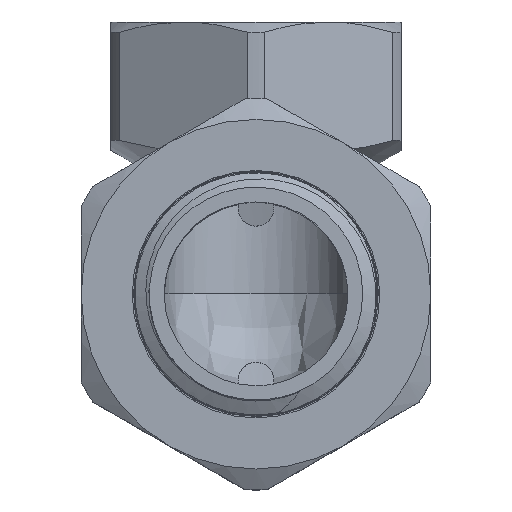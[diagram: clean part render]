
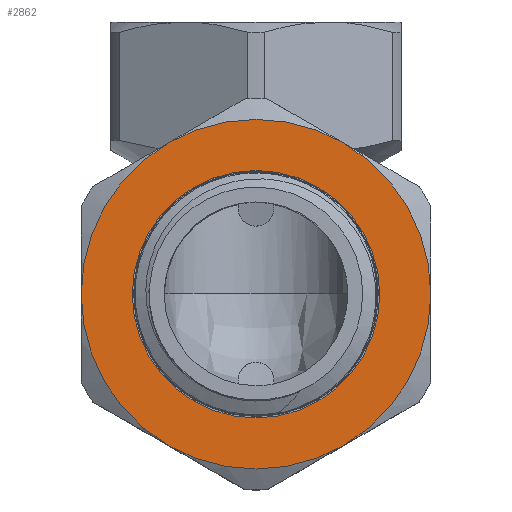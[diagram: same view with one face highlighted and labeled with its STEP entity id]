
A CAD part, top view. The second image highlights one B-rep face of the part: STEP entity #2862.
In plain terms, the highlighted planar face has unit normal (0, 0, 1).
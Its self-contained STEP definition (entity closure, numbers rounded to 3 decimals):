
#90=FACE_BOUND('',#449,.T.);
#112=PLANE('',#3153);
#276=FACE_OUTER_BOUND('',#448,.T.);
#448=EDGE_LOOP('',(#2223,#2224,#2225,#2226,#2227,#2228));
#449=EDGE_LOOP('',(#2229,#2230));
#595=CIRCLE('',#3113,14.75);
#597=CIRCLE('',#3116,14.75);
#599=CIRCLE('',#3119,14.75);
#600=CIRCLE('',#3121,14.75);
#602=CIRCLE('',#3124,14.75);
#604=CIRCLE('',#3127,14.75);
#613=CIRCLE('',#3154,10.439);
#614=CIRCLE('',#3155,10.439);
#1195=VERTEX_POINT('',#8446);
#1197=VERTEX_POINT('',#8452);
#1199=VERTEX_POINT('',#8459);
#1202=VERTEX_POINT('',#8471);
#1205=VERTEX_POINT('',#8486);
#1208=VERTEX_POINT('',#8498);
#1226=VERTEX_POINT('',#11173);
#1227=VERTEX_POINT('',#11174);
#1530=EDGE_CURVE('',#1195,#1197,#595,.T.);
#1534=EDGE_CURVE('',#1199,#1195,#597,.T.);
#1538=EDGE_CURVE('',#1202,#1199,#599,.T.);
#1540=EDGE_CURVE('',#1205,#1202,#600,.T.);
#1544=EDGE_CURVE('',#1208,#1205,#602,.T.);
#1548=EDGE_CURVE('',#1197,#1208,#604,.T.);
#1587=EDGE_CURVE('',#1226,#1227,#613,.T.);
#1588=EDGE_CURVE('',#1227,#1226,#614,.T.);
#2223=ORIENTED_EDGE('',*,*,#1548,.T.);
#2224=ORIENTED_EDGE('',*,*,#1544,.T.);
#2225=ORIENTED_EDGE('',*,*,#1540,.T.);
#2226=ORIENTED_EDGE('',*,*,#1538,.T.);
#2227=ORIENTED_EDGE('',*,*,#1534,.T.);
#2228=ORIENTED_EDGE('',*,*,#1530,.T.);
#2229=ORIENTED_EDGE('',*,*,#1587,.F.);
#2230=ORIENTED_EDGE('',*,*,#1588,.F.);
#2862=ADVANCED_FACE('',(#276,#90),#112,.T.);
#3113=AXIS2_PLACEMENT_3D('',#8456,#3502,#3503);
#3116=AXIS2_PLACEMENT_3D('',#8468,#3508,#3509);
#3119=AXIS2_PLACEMENT_3D('',#8480,#3514,#3515);
#3121=AXIS2_PLACEMENT_3D('',#8487,#3518,#3519);
#3124=AXIS2_PLACEMENT_3D('',#8499,#3524,#3525);
#3127=AXIS2_PLACEMENT_3D('',#8510,#3530,#3531);
#3153=AXIS2_PLACEMENT_3D('',#11172,#3596,#3597);
#3154=AXIS2_PLACEMENT_3D('',#11175,#3598,#3599);
#3155=AXIS2_PLACEMENT_3D('',#11176,#3600,#3601);
#3502=DIRECTION('center_axis',(0.,0.,1.));
#3503=DIRECTION('ref_axis',(0.,1.,0.));
#3508=DIRECTION('center_axis',(0.,0.,1.));
#3509=DIRECTION('ref_axis',(0.,1.,0.));
#3514=DIRECTION('center_axis',(0.,0.,1.));
#3515=DIRECTION('ref_axis',(0.,1.,0.));
#3518=DIRECTION('center_axis',(0.,0.,1.));
#3519=DIRECTION('ref_axis',(0.,1.,0.));
#3524=DIRECTION('center_axis',(0.,0.,1.));
#3525=DIRECTION('ref_axis',(0.,1.,0.));
#3530=DIRECTION('center_axis',(0.,0.,1.));
#3531=DIRECTION('ref_axis',(0.,1.,0.));
#3596=DIRECTION('center_axis',(0.,0.,1.));
#3597=DIRECTION('ref_axis',(1.,0.,0.));
#3598=DIRECTION('center_axis',(0.,0.,1.));
#3599=DIRECTION('ref_axis',(1.,0.,0.));
#3600=DIRECTION('center_axis',(0.,0.,1.));
#3601=DIRECTION('ref_axis',(1.,0.,0.));
#8446=CARTESIAN_POINT('',(-7.375,-12.774,12.5));
#8452=CARTESIAN_POINT('',(7.375,-12.774,12.5));
#8456=CARTESIAN_POINT('Origin',(0.,0.,12.5));
#8459=CARTESIAN_POINT('',(-14.75,0.,12.5));
#8468=CARTESIAN_POINT('Origin',(0.,0.,12.5));
#8471=CARTESIAN_POINT('',(-7.375,12.774,12.5));
#8480=CARTESIAN_POINT('Origin',(0.,0.,12.5));
#8486=CARTESIAN_POINT('',(7.375,12.774,12.5));
#8487=CARTESIAN_POINT('Origin',(0.,0.,12.5));
#8498=CARTESIAN_POINT('',(14.75,0.,12.5));
#8499=CARTESIAN_POINT('Origin',(0.,0.,12.5));
#8510=CARTESIAN_POINT('Origin',(0.,0.,12.5));
#11172=CARTESIAN_POINT('Origin',(0.,-10.439,12.5));
#11173=CARTESIAN_POINT('',(0.,-10.439,12.5));
#11174=CARTESIAN_POINT('',(0.,10.439,12.5));
#11175=CARTESIAN_POINT('Origin',(0.,0.,12.5));
#11176=CARTESIAN_POINT('Origin',(0.,0.,12.5));
